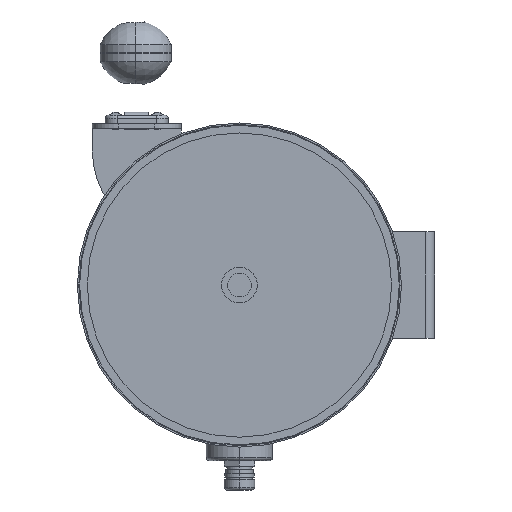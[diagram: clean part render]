
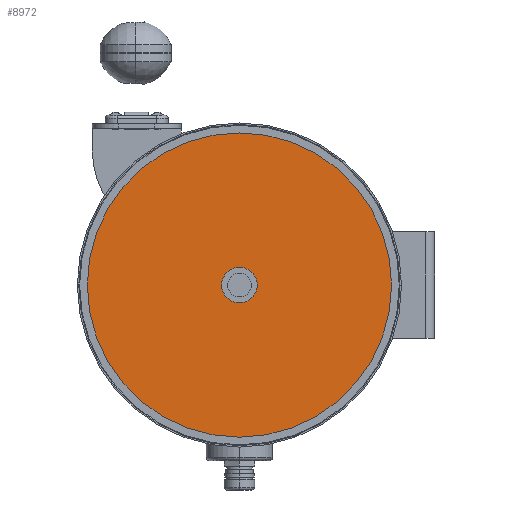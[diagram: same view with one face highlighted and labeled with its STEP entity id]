
A CAD part, left-side view. The second image highlights one B-rep face of the part: STEP entity #8972.
In plain terms, the highlighted planar face has unit normal (-1, 0, 0).
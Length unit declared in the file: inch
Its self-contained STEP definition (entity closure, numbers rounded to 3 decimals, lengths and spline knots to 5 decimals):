
#87 = CARTESIAN_POINT ( 'NONE',  ( -14.7621, 0., 0. ) ) ;
#197 = ORIENTED_EDGE ( 'NONE', *, *, #2948, .F. ) ;
#1137 = CARTESIAN_POINT ( 'NONE',  ( -14.7621, 0., 0. ) ) ;
#1222 = DIRECTION ( 'NONE',  ( -1., 0., 0. ) ) ;
#1406 = DIRECTION ( 'NONE',  ( -1., 0., 0. ) ) ;
#2058 = DIRECTION ( 'NONE',  ( 0., 0., 1. ) ) ;
#2756 = EDGE_CURVE ( 'NONE', #13919, #7012, #3126, .T. ) ;
#2948 = EDGE_CURVE ( 'NONE', #7012, #13919, #14289, .T. ) ;
#3126 = CIRCLE ( 'NONE', #13060, 0.75 ) ;
#3822 = CIRCLE ( 'NONE', #8355, 6.4247 ) ;
#4155 = DIRECTION ( 'NONE',  ( 0., 0., 1. ) ) ;
#5155 = DIRECTION ( 'NONE',  ( -1., 0., 0. ) ) ;
#5846 = CIRCLE ( 'NONE', #15801, 6.4247 ) ;
#6601 = AXIS2_PLACEMENT_3D ( 'NONE', #87, #1406, #4155 ) ;
#7012 = VERTEX_POINT ( 'NONE', #8360 ) ;
#7071 = ORIENTED_EDGE ( 'NONE', *, *, #15528, .T. ) ;
#7285 = CARTESIAN_POINT ( 'NONE',  ( -14.7621, 0., -6.4247 ) ) ;
#7356 = CARTESIAN_POINT ( 'NONE',  ( -14.7621, 0., 0. ) ) ;
#7469 = ORIENTED_EDGE ( 'NONE', *, *, #14045, .T. ) ;
#7474 = ORIENTED_EDGE ( 'NONE', *, *, #2756, .F. ) ;
#7598 = DIRECTION ( 'NONE',  ( 0., 0., 1. ) ) ;
#7715 = CARTESIAN_POINT ( 'NONE',  ( -14.7621, 0., 0. ) ) ;
#8355 = AXIS2_PLACEMENT_3D ( 'NONE', #12014, #17451, #10686 ) ;
#8360 = CARTESIAN_POINT ( 'NONE',  ( -14.7621, 0., 0.75 ) ) ;
#8458 = VERTEX_POINT ( 'NONE', #13804 ) ;
#8868 = DIRECTION ( 'NONE',  ( 0., 0., 1. ) ) ;
#8955 = DIRECTION ( 'NONE',  ( -1., 0., 0. ) ) ;
#8972 = ADVANCED_FACE ( 'NONE', ( #9110, #12064 ), #10459, .T. ) ;
#9110 = FACE_BOUND ( 'NONE', #13727, .T. ) ;
#9250 = CARTESIAN_POINT ( 'NONE',  ( -14.7621, 0., -0.75 ) ) ;
#10459 = PLANE ( 'NONE',  #16311 ) ;
#10686 = DIRECTION ( 'NONE',  ( 0., 0., 1. ) ) ;
#12014 = CARTESIAN_POINT ( 'NONE',  ( -14.7621, 0., 0. ) ) ;
#12064 = FACE_OUTER_BOUND ( 'NONE', #16215, .T. ) ;
#13060 = AXIS2_PLACEMENT_3D ( 'NONE', #7356, #8955, #8868 ) ;
#13389 = VERTEX_POINT ( 'NONE', #7285 ) ;
#13727 = EDGE_LOOP ( 'NONE', ( #7474, #197 ) ) ;
#13804 = CARTESIAN_POINT ( 'NONE',  ( -14.7621, 0., 6.4247 ) ) ;
#13919 = VERTEX_POINT ( 'NONE', #9250 ) ;
#14045 = EDGE_CURVE ( 'NONE', #13389, #8458, #3822, .T. ) ;
#14289 = CIRCLE ( 'NONE', #6601, 0.75 ) ;
#15528 = EDGE_CURVE ( 'NONE', #8458, #13389, #5846, .T. ) ;
#15801 = AXIS2_PLACEMENT_3D ( 'NONE', #7715, #5155, #2058 ) ;
#16215 = EDGE_LOOP ( 'NONE', ( #7469, #7071 ) ) ;
#16311 = AXIS2_PLACEMENT_3D ( 'NONE', #1137, #1222, #7598 ) ;
#17451 = DIRECTION ( 'NONE',  ( -1., 0., 0. ) ) ;
